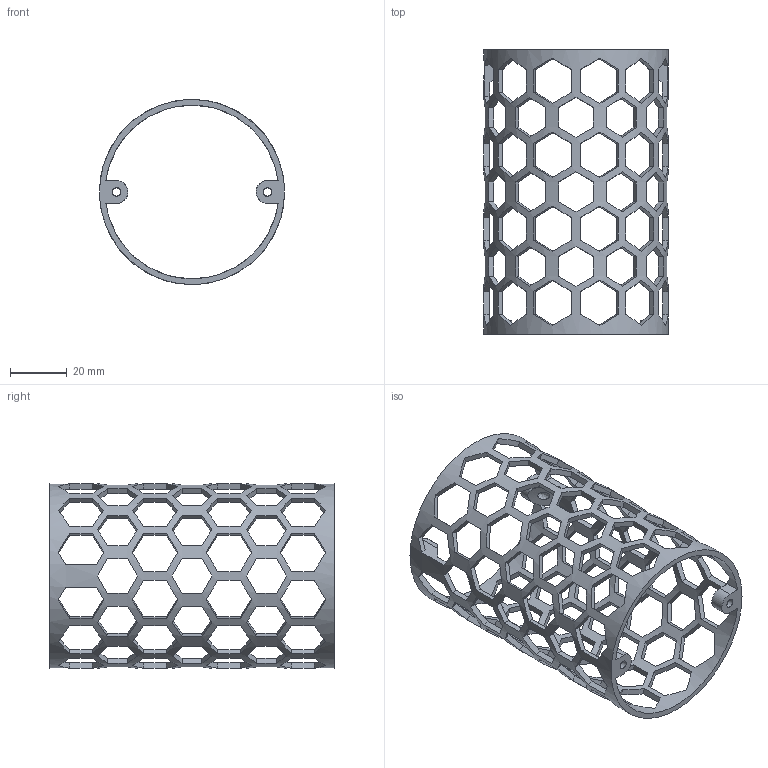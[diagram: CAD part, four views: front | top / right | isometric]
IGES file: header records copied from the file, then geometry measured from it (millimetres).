
Global section: file name: Case_Cansat Estandar; native system: Autodesk Inventor 2022; preprocessor: unknown; author: pined; date: 20220607.174324; units: millimetre
Bounding box: 65 x 100 x 65 mm (x, y, z)
Volume: 15725.8 mm3; surface area: 23974 mm2
Topology: 1 solids, 1 shells, 552 faces, 1667 edges, 1114 vertices
Faces by surface type: bspline 552
